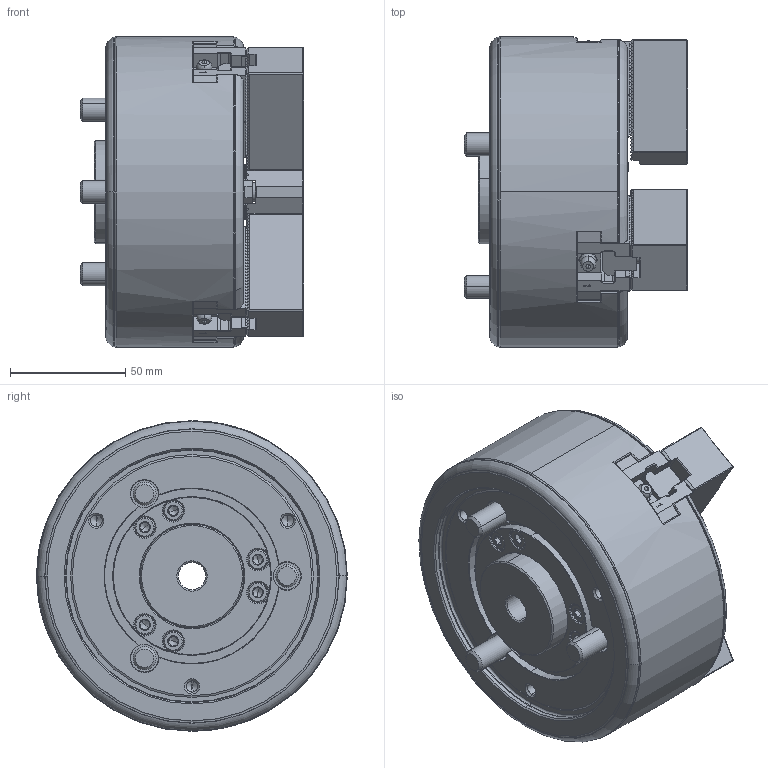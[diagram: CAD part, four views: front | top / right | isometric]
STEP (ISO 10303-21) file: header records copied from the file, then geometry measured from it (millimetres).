
FILE_DESCRIPTION (( 'STEP AP214' ), '1' );
FILE_NAME ('DEV-BR05-OUTSIDE_VIEW_OC.STEP', '2024-06-05T00:31:44', ( '' ), ( '' ), 'SwSTEP 2.0', 'SolidWorks 2022', '' );
FILE_SCHEMA (( 'AUTOMOTIVE_DESIGN' ));
Length unit declared in the file: millimetre
Products named in the file (9): DEV-BR05-0030108020; DEV-BR05-61P866266; DEV-BR05-0030110060; DEV-BR05-61P422119; DEV-BR05-0033104006; DEV-BR05-61P422113; DEV-BR05-61P422122; DEV-BR05-OUTSIDE_VIEW_OC; Part2^DEV-BR05-61P866277
Assembly tree (21 placements, depth 2):
  DEV-BR05-OUTSIDE_VIEW_OC
    DEV-BR05-61P866266
    DEV-BR05-61P422119  x3
    DEV-BR05-61P422113  x3
    DEV-BR05-61P422122
    DEV-BR05-0030110060  x3
    DEV-BR05-0033104006  x3
    DEV-BR05-0030108020  x6
    Part2^DEV-BR05-61P866277
Bounding box: 97 x 135 x 135 mm (x, y, z)
Volume: 836988.1 mm3; surface area: 147401.8 mm2
Topology: 21 solids, 30 shells, 3476 faces, 9686 edges, 6276 vertices
Faces by surface type: plane 2357, cylinder 452, cone 413, bspline 141, torus 100, sphere 13
Entity records: 93025 total; most frequent: CARTESIAN_POINT 24195, ORIENTED_EDGE 14980, DIRECTION 13021, EDGE_CURVE 7490, LINE 5303, VECTOR 5303, VERTEX_POINT 4894, AXIS2_PLACEMENT_3D 3859
